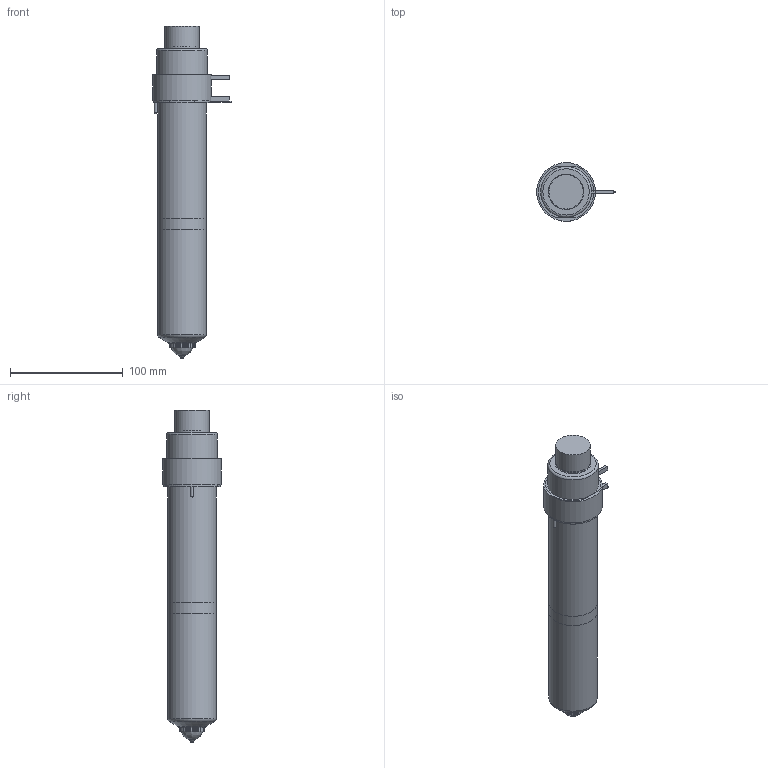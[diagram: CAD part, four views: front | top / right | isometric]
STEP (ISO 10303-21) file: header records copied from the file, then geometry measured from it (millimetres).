
FILE_DESCRIPTION(/* description */ (''),/* implementation_level */ '2;1');
FILE_NAME(/* name */ 'SXTT-SXIT27225_250C_b',/* time_stamp */ '2007-01-24T17:20:44+13:00',/* author */ (''),/* organization */ (''),/* preprocessor_version */ 'ST-DEVELOPER v9',/* originating_system */ 'UGS - NX 4.0',/* authorisation */ '');
FILE_SCHEMA (('CONFIG_CONTROL_DESIGN'));
Length unit declared in the file: millimetre
Products named in the file (1): SXTT-SXIT27225_250C_b
Bounding box: 69.6 x 52 x 293.94 mm (x, y, z)
Volume: 736718.8 mm3; surface area: 84898.8 mm2
Topology: 7 solids, 7 shells, 96 faces, 189 edges, 121 vertices
Faces by surface type: plane 43, cylinder 28, cone 12, torus 11, bspline 2
Full cylindrical faces by diameter (mm): 1 x3, 2 x1, 2.5 x2, 12 x1, 22.61 x1, 23.01 x2, 27.5 x1, 30 x1, 30.4 x1, 38.1 x2, 43 x2, 45 x1, 50 x1, 52 x1
Entity records: 2480 total; most frequent: CARTESIAN_POINT 582, DIRECTION 398, ORIENTED_EDGE 286, AXIS2_PLACEMENT_3D 174, EDGE_LOOP 148, EDGE_CURVE 143, VERTEX_POINT 114, ADVANCED_FACE 96
